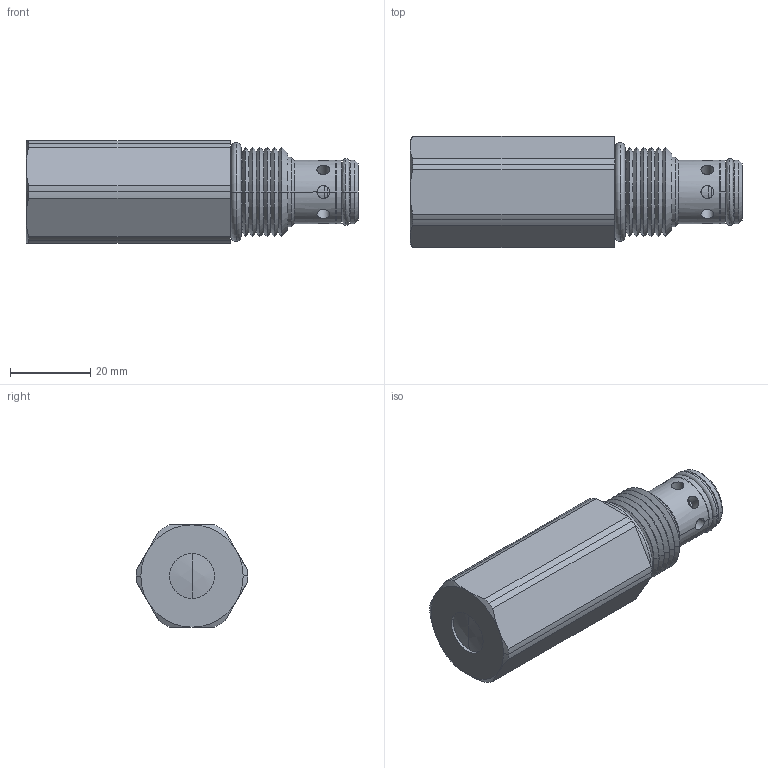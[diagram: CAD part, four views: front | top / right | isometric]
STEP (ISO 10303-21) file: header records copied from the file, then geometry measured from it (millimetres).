
FILE_DESCRIPTION((''),'2;1');
FILE_NAME('U:\Solid model CD\Solid model full\Mechanical\STEP\DERWP0T-3D Full.stp','2008-07-29T09:03:42',('Dan'),(''),'Autodesk Inventor 9','Autodesk Inventor 9','');
FILE_SCHEMA(('AUTOMOTIVE_DESIGN { 1 0 10303 214 1 1 1 1 }'));
Length unit declared in the file: inch
Products named in the file (5): DERWP0T-3D Full; DERWP0T-3D Full1; DERWP0T-3D Full2; DERWP0T-3D Full3; DERWP0T-3D Full4
Assembly tree (4 placements, depth 2):
  DERWP0T-3D Full
    DERWP0T-3D Full1
    DERWP0T-3D Full2
    DERWP0T-3D Full3
    DERWP0T-3D Full4
Bounding box: 82.5 x 27.69 x 25.4 mm (x, y, z)
Volume: 35874.6 mm3; surface area: 9501.4 mm2
Topology: 4 solids, 5 shells, 141 faces, 330 edges, 206 vertices
Faces by surface type: cylinder 60, cone 40, plane 23, bspline 12, torus 4, sphere 2
Entity records: 4898 total; most frequent: CARTESIAN_POINT 1536, DIRECTION 702, ORIENTED_EDGE 660, EDGE_CURVE 330, AXIS2_PLACEMENT_3D 294, VERTEX_POINT 206, EDGE_LOOP 170, CIRCLE 156
